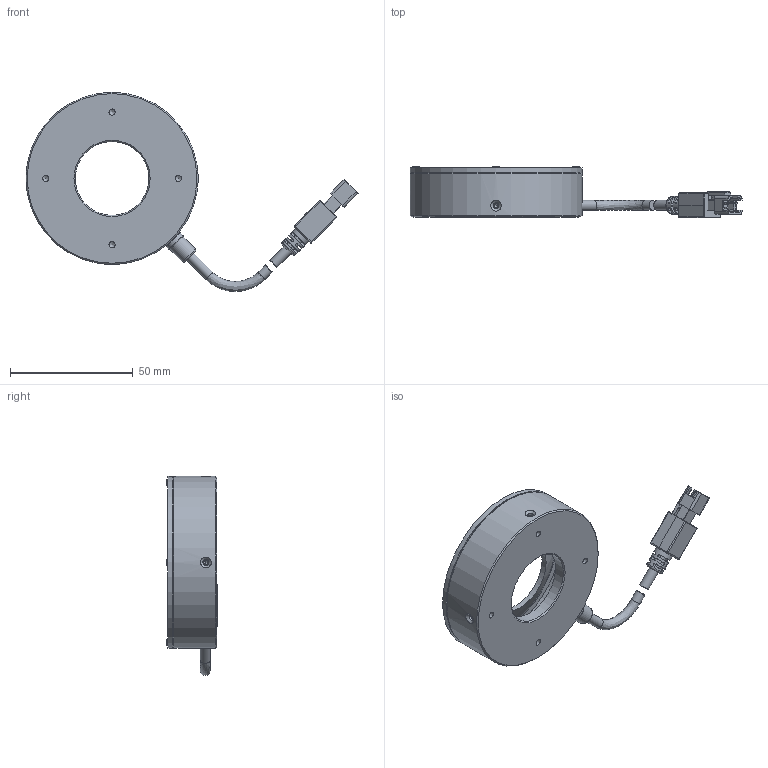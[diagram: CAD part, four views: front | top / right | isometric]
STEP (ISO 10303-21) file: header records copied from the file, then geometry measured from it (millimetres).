
FILE_DESCRIPTION (( 'STEP AP203' ), '1' );
FILE_NAME ('OPT-IRI7030-IR-V2.0U.STEP', '2025-02-15T00:16:18', ( '' ), ( '' ), 'SwSTEP 2.0', 'SolidWorks 2016', '' );
FILE_SCHEMA (( 'CONFIG_CONTROL_DESIGN' ));
Length unit declared in the file: millimetre
Products named in the file (1): OPT-IRI7030-IR-V2.0U
Bounding box: 135.04 x 20.7 x 81.03 mm (x, y, z)
Volume: 45908.8 mm3; surface area: 26923.8 mm2
Topology: 11 solids, 11 shells, 449 faces, 1125 edges, 716 vertices
Faces by surface type: plane 245, cylinder 134, cone 37, bspline 23, torus 6, sphere 4
Full cylindrical faces by diameter (mm): 1.1 x4, 1.4 x4, 1.6 x4, 1.7 x4, 2 x4, 2.4 x4, 2.5 x4, 2.6 x4, 3.5 x1, 4.1 x4, 5.8 x1, 7.5 x2, 8 x1, 30 x2, 31.8 x1, 62 x1, 66 x1, 70 x2
Entity records: 15397 total; most frequent: CARTESIAN_POINT 5299, DIRECTION 2014, ORIENTED_EDGE 1978, EDGE_CURVE 989, AXIS2_PLACEMENT_3D 689, VERTEX_POINT 678, LINE 636, VECTOR 636
